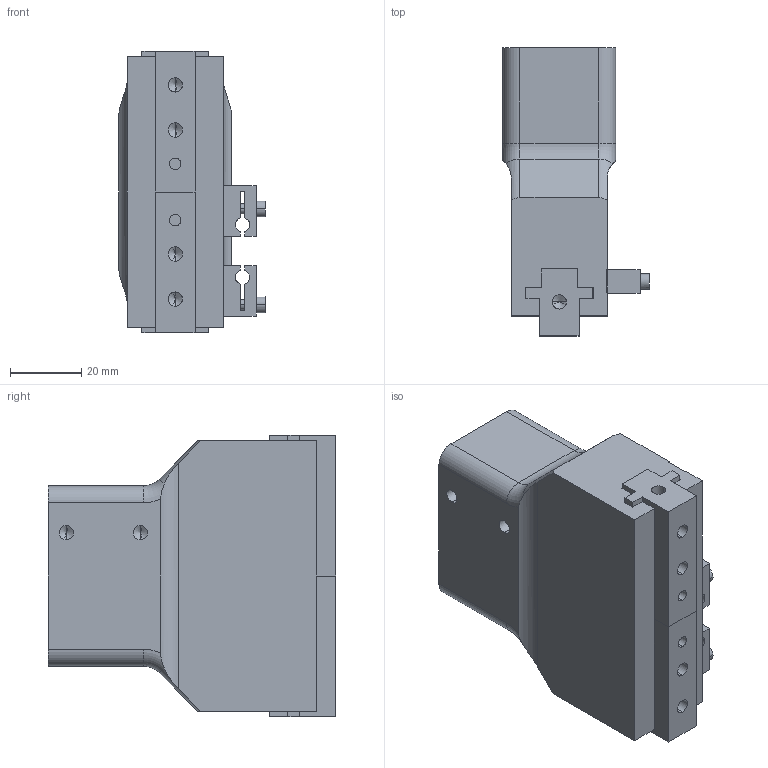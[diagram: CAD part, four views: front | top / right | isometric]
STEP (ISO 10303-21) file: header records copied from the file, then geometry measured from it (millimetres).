
FILE_DESCRIPTION (( 'STEP AP203' ), '1' );
FILE_NAME ('AGPT-1125 CLOSED in IN.STEP', '2014-10-31T20:32:22', ( 'setup' ), ( '' ), 'SwSTEP 2.0', 'SolidWorks 2013', '' );
FILE_SCHEMA (( 'CONFIG_CONTROL_DESIGN' ));
Length unit declared in the file: inch
Products named in the file (5): RPG35S1; RPG35S2; AGPT-1125 CLOSED in IN; agpt-1125_Body; agpt-1125_Jaw
Assembly tree (5 placements, depth 2):
  AGPT-1125 CLOSED in IN
    agpt-1125_Body
    agpt-1125_Jaw  x2
    RPG35S1
    RPG35S2
Bounding box: 41.17 x 81.08 x 79.35 mm (x, y, z)
Volume: 142024.9 mm3; surface area: 31525.1 mm2
Topology: 5 solids, 5 shells, 217 faces, 584 edges, 364 vertices
Faces by surface type: plane 113, cylinder 80, cone 20, torus 4
Entity records: 6397 total; most frequent: CARTESIAN_POINT 1189, DIRECTION 976, ORIENTED_EDGE 972, EDGE_CURVE 486, AXIS2_PLACEMENT_3D 326, LINE 324, VECTOR 324, VERTEX_POINT 315
